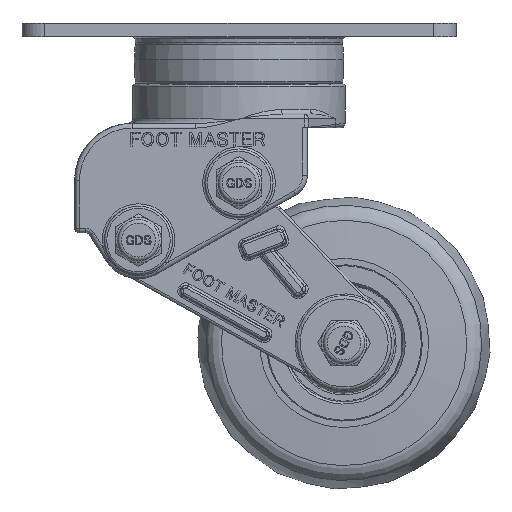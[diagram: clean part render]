
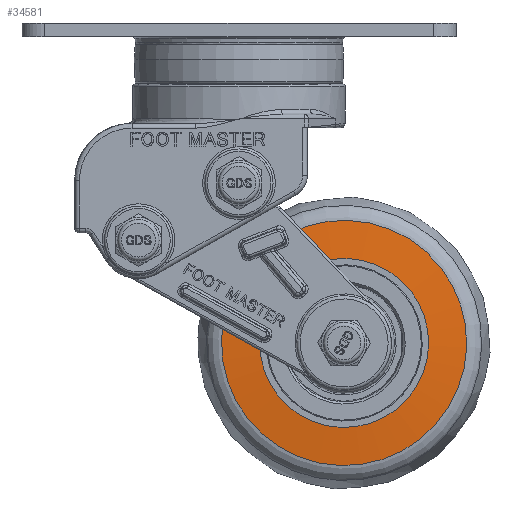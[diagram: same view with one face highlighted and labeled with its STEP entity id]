
A CAD part, front view. The second image highlights one B-rep face of the part: STEP entity #34581.
In plain terms, the highlighted conical face has half-angle 85 degrees and reference radius 22.669 mm.
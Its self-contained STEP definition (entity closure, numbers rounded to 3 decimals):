
#2331=CONICAL_SURFACE('',#36775,22.669,1.484);
#2766=LINE('',#49264,#5270);
#5270=VECTOR('',#39877,22.669);
#8139=FACE_OUTER_BOUND('',#10119,.T.);
#10119=EDGE_LOOP('',(#22517,#22518,#22519,#22520,#22521,#22522));
#12246=CIRCLE('',#36773,26.838);
#12247=CIRCLE('',#36774,26.838);
#12248=CIRCLE('',#36776,18.5);
#12249=CIRCLE('',#36777,18.5);
#13635=VERTEX_POINT('',#49257);
#13636=VERTEX_POINT('',#49259);
#13637=VERTEX_POINT('',#49263);
#13638=VERTEX_POINT('',#49265);
#17085=EDGE_CURVE('',#13635,#13636,#12246,.T.);
#17086=EDGE_CURVE('',#13636,#13635,#12247,.T.);
#17087=EDGE_CURVE('',#13635,#13637,#2766,.T.);
#17088=EDGE_CURVE('',#13637,#13638,#12248,.T.);
#17089=EDGE_CURVE('',#13638,#13637,#12249,.T.);
#22517=ORIENTED_EDGE('',*,*,#17086,.F.);
#22518=ORIENTED_EDGE('',*,*,#17085,.F.);
#22519=ORIENTED_EDGE('',*,*,#17087,.T.);
#22520=ORIENTED_EDGE('',*,*,#17088,.T.);
#22521=ORIENTED_EDGE('',*,*,#17089,.T.);
#22522=ORIENTED_EDGE('',*,*,#17087,.F.);
#34581=ADVANCED_FACE('',(#8139),#2331,.T.);
#36773=AXIS2_PLACEMENT_3D('',#49260,#39871,#39872);
#36774=AXIS2_PLACEMENT_3D('',#49261,#39873,#39874);
#36775=AXIS2_PLACEMENT_3D('',#49262,#39875,#39876);
#36776=AXIS2_PLACEMENT_3D('',#49266,#39878,#39879);
#36777=AXIS2_PLACEMENT_3D('',#49267,#39880,#39881);
#39871=DIRECTION('center_axis',(0.,1.,0.));
#39872=DIRECTION('ref_axis',(0.309,0.,-0.951));
#39873=DIRECTION('center_axis',(0.,1.,0.));
#39874=DIRECTION('ref_axis',(0.309,0.,-0.951));
#39875=DIRECTION('center_axis',(0.,1.,0.));
#39876=DIRECTION('ref_axis',(0.309,0.,-0.951));
#39877=DIRECTION('',(0.308,-0.087,-0.947));
#39878=DIRECTION('center_axis',(0.,1.,0.));
#39879=DIRECTION('ref_axis',(0.309,0.,-0.951));
#39880=DIRECTION('center_axis',(0.,1.,0.));
#39881=DIRECTION('ref_axis',(0.309,0.,-0.951));
#49257=CARTESIAN_POINT('',(-17.316,-8.866,-33.467));
#49259=CARTESIAN_POINT('',(-0.707,-8.866,-84.51));
#49260=CARTESIAN_POINT('Origin',(-9.011,-8.866,-58.989));
#49261=CARTESIAN_POINT('Origin',(-9.011,-8.866,-58.989));
#49262=CARTESIAN_POINT('Origin',(-9.011,-9.23,-58.989));
#49263=CARTESIAN_POINT('',(-14.736,-9.595,-41.397));
#49264=CARTESIAN_POINT('',(-16.026,-9.23,-37.432));
#49265=CARTESIAN_POINT('',(-3.287,-9.595,-76.581));
#49266=CARTESIAN_POINT('Origin',(-9.011,-9.595,-58.989));
#49267=CARTESIAN_POINT('Origin',(-9.011,-9.595,-58.989));
